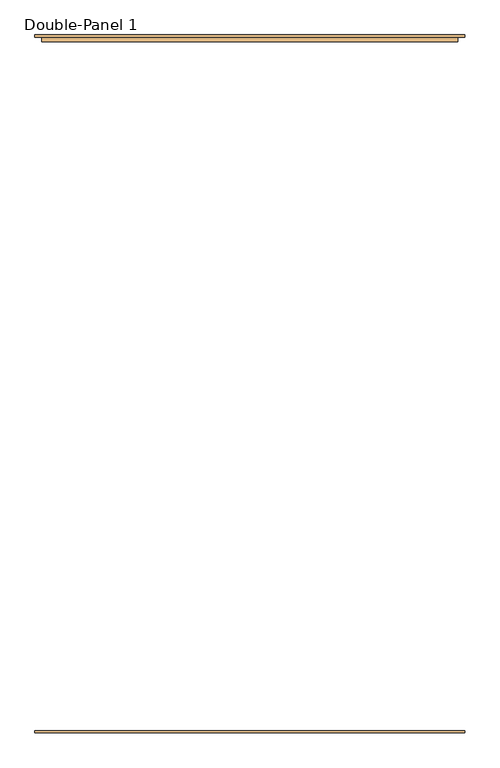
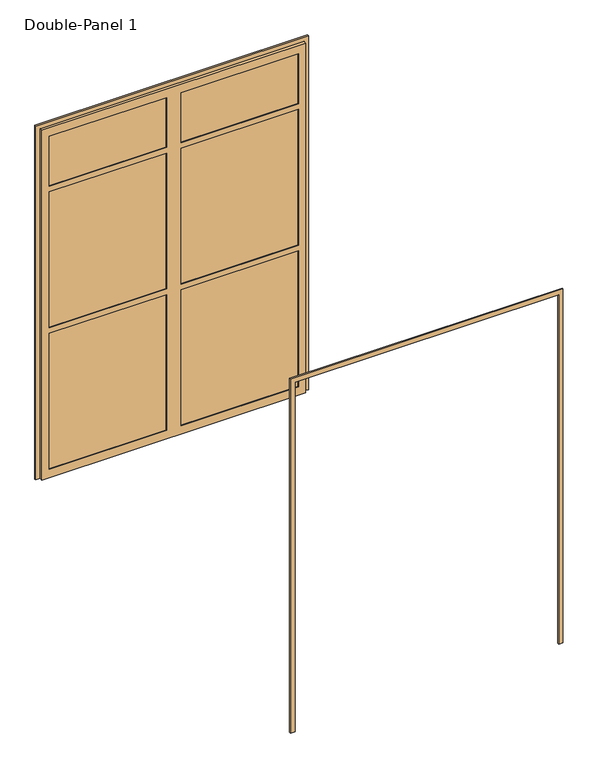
"""IFC4 building model written with IfcOpenShell, lengths in millimetres: door geometry, Double-Panel 1 : Pantheon Bronze Door."""

from ifc_helpers import new_model, si_unit, frame, origin, place, context, project, spatial, polyline, outline, extrude, source, transform, mapped, element, save


def double_panel_1_651bd410(model_context):
    return source(origin(), model_context, "Body", "SweptSolid", [
        extrude(outline(polyline([(6477.0, -2362.2), (0.0, -2362.2), (0.0, -2286.0), (6400.8, -2286.0), (6400.8, 2286.0), (0.0, 2286.0), (0.0, 2362.2), (6477.0, 2362.2), (6477.0, -2362.2)])), frame((0.0, 3810.0, 0.0), z_axis=(0.0, 1.0, 0.0), x_axis=(0.0, 0.0, 1.0)), (0.0, 0.0, 1.0), 25.4),
        extrude(outline(polyline([(127.0, 3797.3), (2159.0, 3797.3), (2159.0, 3771.9), (127.0, 3771.9), (127.0, 3797.3)])), frame((0.0, 0.0, 5334.0), z_axis=(0.0, 0.0, 1.0), x_axis=(1.0, 0.0, 0.0)), (0.0, 0.0, 1.0), 914.4),
        extrude(outline(polyline([(127.0, 3797.3), (2159.0, 3797.3), (2159.0, 3771.9), (127.0, 3771.9), (127.0, 3797.3)])), frame((0.0, 0.0, 2743.2), z_axis=(0.0, 0.0, 1.0), x_axis=(1.0, 0.0, 0.0)), (0.0, 0.0, 1.0), 2489.2),
        extrude(outline(polyline([(127.0, 3797.3), (2159.0, 3797.3), (2159.0, 3771.9), (127.0, 3771.9), (127.0, 3797.3)])), frame((0.0, 0.0, 152.4), z_axis=(0.0, 0.0, 1.0), x_axis=(1.0, 0.0, 0.0)), (0.0, 0.0, 1.0), 2489.2),
        extrude(outline(polyline([(-2159.0, 3797.3), (-127.0, 3797.3), (-127.0, 3771.9), (-2159.0, 3771.9), (-2159.0, 3797.3)])), frame((0.0, 0.0, 5334.0), z_axis=(0.0, 0.0, 1.0), x_axis=(1.0, 0.0, 0.0)), (0.0, 0.0, 1.0), 914.4),
        extrude(outline(polyline([(-2159.0, 3797.3), (-127.0, 3797.3), (-127.0, 3771.9), (-2159.0, 3771.9), (-2159.0, 3797.3)])), frame((0.0, 0.0, 2743.2), z_axis=(0.0, 0.0, 1.0), x_axis=(1.0, 0.0, 0.0)), (0.0, 0.0, 1.0), 2489.2),
        extrude(outline(polyline([(-2159.0, 3797.3), (-127.0, 3797.3), (-127.0, 3771.9), (-2159.0, 3771.9), (-2159.0, 3797.3)])), frame((0.0, 0.0, 152.4), z_axis=(0.0, 0.0, 1.0), x_axis=(1.0, 0.0, 0.0)), (0.0, 0.0, 1.0), 2489.2),
        extrude(outline(polyline([(6400.8, -2286.0), (0.0, -2286.0), (0.0, 2286.0), (6400.8, 2286.0), (6400.8, -2286.0)]), holes=[polyline([(6248.4, 127.0), (6248.4, 2159.0), (5334.0, 2159.0), (5334.0, 127.0), (6248.4, 127.0)]), polyline([(2743.2, 2159.0), (2743.2, 127.0), (5232.4, 127.0), (5232.4, 2159.0), (2743.2, 2159.0)]), polyline([(2641.6, 2159.0), (152.4, 2159.0), (152.4, 127.0), (2641.6, 127.0), (2641.6, 2159.0)]), polyline([(6248.4, -127.0), (5334.0, -127.0), (5334.0, -2159.0), (6248.4, -2159.0), (6248.4, -127.0)]), polyline([(5232.4, -2159.0), (5232.4, -127.0), (2743.2, -127.0), (2743.2, -2159.0), (5232.4, -2159.0)]), polyline([(152.4, -127.0), (152.4, -2159.0), (2641.6, -2159.0), (2641.6, -127.0), (152.4, -127.0)])]), frame((0.0, 3759.2, 0.0), z_axis=(0.0, 1.0, 0.0), x_axis=(0.0, 0.0, 1.0)), (0.0, 0.0, 1.0), 50.8),
        extrude(outline(polyline([(6400.8, -2286.0), (6400.8, 2286.0), (0.0, 2286.0), (0.0, 2362.2), (6477.0, 2362.2), (6477.0, -2362.2), (0.0, -2362.2), (0.0, -2286.0), (6400.8, -2286.0)])), frame((0.0, -3835.4, 0.0), z_axis=(0.0, 1.0, 0.0), x_axis=(0.0, 0.0, 1.0)), (0.0, 0.0, 1.0), 25.4),
    ])


if __name__ == "__main__":
    model = new_model("IFC4")
    model_context = context("Model", 3, world=origin())
    ifc_project = project(units=[si_unit("LENGTHUNIT", "METRE", prefix="MILLI")], contexts=[model_context])
    site = spatial("IfcSite", under=ifc_project)
    building = spatial("IfcBuilding", under=site)
    placement = place(None, origin())
    double_panel_1_shape = double_panel_1_651bd410(model_context)
    element("IfcDoor", 1, ObjectType="Double-Panel 1 : Pantheon Bronze Door", at=placement, inside=building, context=model_context, shape_type="MappedRepresentation", body=[
        mapped(double_panel_1_shape, transform((0.0, 0.0, 0.0), x_axis=(1.0, 0.0, 0.0), y_axis=(0.0, 1.0, 0.0), z_axis=(0.0, 0.0, 1.0))),
    ])
    save(model, "model.ifc")
